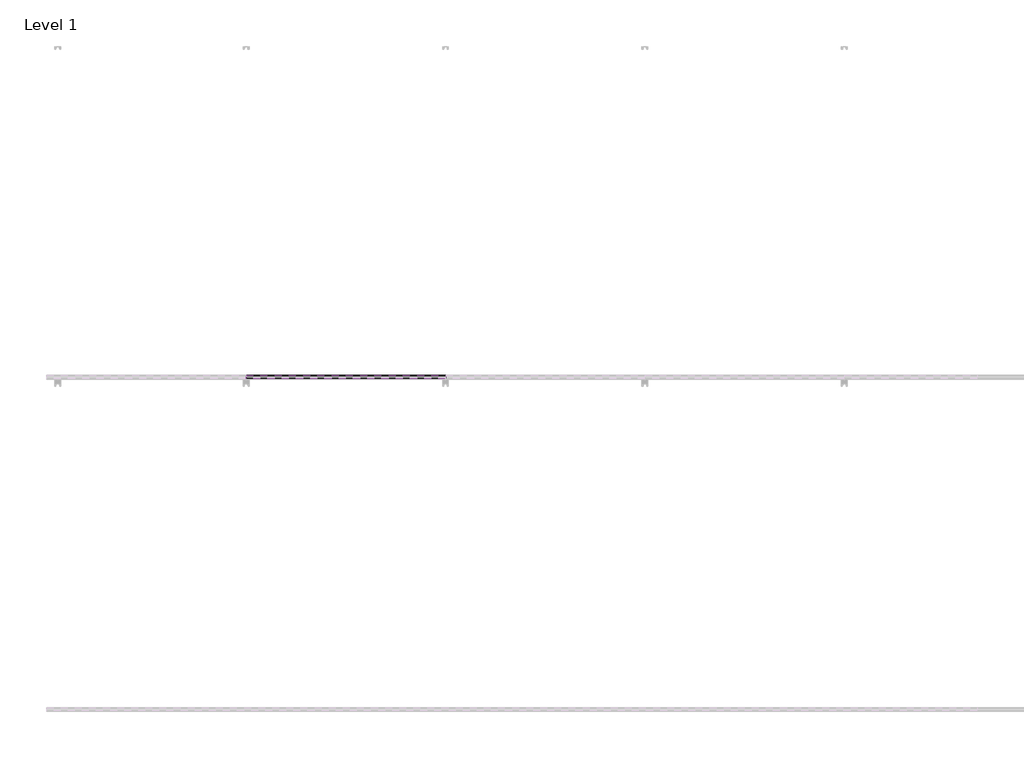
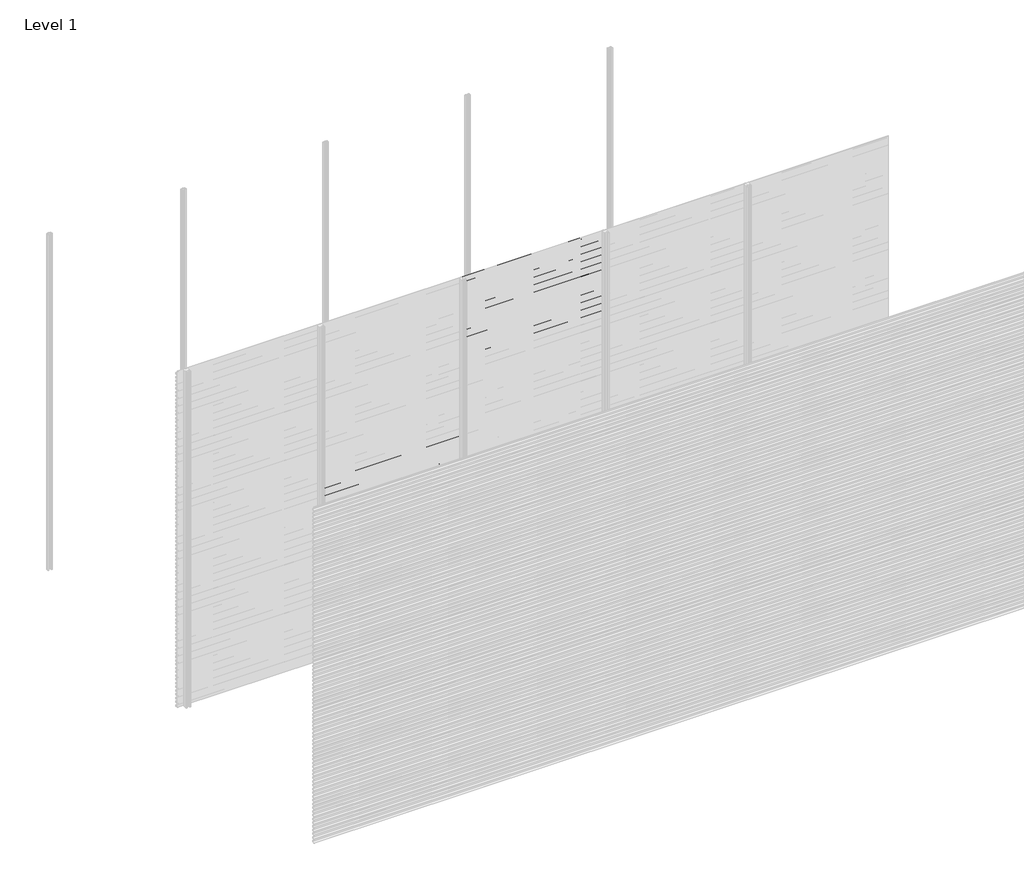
# One storey, part 59 of 77: 72 proxies.
"""IFC4 building model written with IfcOpenShell, lengths in millimetres."""

from ifc_helpers import new_model, si_unit, frame, origin, place, context, project, spatial, polyline, outline, extrude, element, save

model = new_model("IFC4")

# Units and contexts
model_context = context("Model", 3, world=origin())
ifc_project = project(units=[si_unit("LENGTHUNIT", "METRE", prefix="MILLI")], contexts=[model_context])

# Site, building, storey
site = spatial("IfcSite", under=ifc_project)
building = spatial("IfcBuilding", under=site)
storey = spatial("IfcBuildingStorey", under=building, Name="Level 1", Elevation=0.0)

# Proxies
placement = place(None, origin())
element("IfcBuildingElementProxy", 1, Name="Wall Sweeps", at=placement, inside=storey, context=model_context, shape_type="SweptSolid", body=[
    extrude(outline(polyline([(-11978.6, 1607.2359887), (-11998.0, 1618.4366691), (-11998.0, 1631.7), (-11997.0, 1631.7), (-11997.0, 1619.0191057), (-11977.6, 1607.8185105), (-11977.6, 1594.2185105), (-11978.6, 1595.7953129), (-11978.6, 1601.6032062), (-11995.9773817, 1593.5), (-11996.4, 1594.4063078), (-11978.6, 1602.7065841), (-11978.6, 1607.2359887)])), frame((1200.0, 0.0, 0.0), z_axis=(1.0, 0.0, 0.0), x_axis=(0.0, 1.0, 0.0)), (0.0, 0.0, 1.0), 1200.0),
])
element("IfcBuildingElementProxy", 2, Name="Wall Sweeps", at=placement, inside=storey, context=model_context, shape_type="SweptSolid", body=[
    extrude(outline(polyline([(-11978.6, 1573.9359887), (-11998.0, 1585.1366691), (-11998.0, 1598.4), (-11997.0, 1598.4), (-11997.0, 1585.7191057), (-11977.6, 1574.5185105), (-11977.6, 1560.9185105), (-11978.6, 1562.4953129), (-11978.6, 1568.3032062), (-11995.9773817, 1560.2), (-11996.4, 1561.1063078), (-11978.6, 1569.4065841), (-11978.6, 1573.9359887)])), frame((1200.0, 0.0, 0.0), z_axis=(1.0, 0.0, 0.0), x_axis=(0.0, 1.0, 0.0)), (0.0, 0.0, 1.0), 1200.0),
])
element("IfcBuildingElementProxy", 3, Name="Wall Sweeps", at=placement, inside=storey, context=model_context, shape_type="SweptSolid", body=[
    extrude(outline(polyline([(-11978.6, 1540.6359887), (-11998.0, 1551.8366691), (-11998.0, 1565.1), (-11997.0, 1565.1), (-11997.0, 1552.4191057), (-11977.6, 1541.2185105), (-11977.6, 1527.6185105), (-11978.6, 1529.1953129), (-11978.6, 1535.0032062), (-11995.9773817, 1526.9), (-11996.4, 1527.8063078), (-11978.6, 1536.1065841), (-11978.6, 1540.6359887)])), frame((1200.0, 0.0, 0.0), z_axis=(1.0, 0.0, 0.0), x_axis=(0.0, 1.0, 0.0)), (0.0, 0.0, 1.0), 1200.0),
])
element("IfcBuildingElementProxy", 4, Name="Wall Sweeps", at=placement, inside=storey, context=model_context, shape_type="SweptSolid", body=[
    extrude(outline(polyline([(-11978.6, 1507.3359887), (-11998.0, 1518.5366691), (-11998.0, 1531.8), (-11997.0, 1531.8), (-11997.0, 1519.1191057), (-11977.6, 1507.9185105), (-11977.6, 1494.3185105), (-11978.6, 1495.8953129), (-11978.6, 1501.7032062), (-11995.9773817, 1493.6), (-11996.4, 1494.5063078), (-11978.6, 1502.8065841), (-11978.6, 1507.3359887)])), frame((1200.0, 0.0, 0.0), z_axis=(1.0, 0.0, 0.0), x_axis=(0.0, 1.0, 0.0)), (0.0, 0.0, 1.0), 1200.0),
])
element("IfcBuildingElementProxy", 5, Name="Wall Sweeps", at=placement, inside=storey, context=model_context, shape_type="SweptSolid", body=[
    extrude(outline(polyline([(-11978.6, 1474.0359887), (-11998.0, 1485.2366691), (-11998.0, 1498.5), (-11997.0, 1498.5), (-11997.0, 1485.8191057), (-11977.6, 1474.6185105), (-11977.6, 1461.0185105), (-11978.6, 1462.5953129), (-11978.6, 1468.4032062), (-11995.9773817, 1460.3), (-11996.4, 1461.2063078), (-11978.6, 1469.5065841), (-11978.6, 1474.0359887)])), frame((1200.0, 0.0, 0.0), z_axis=(1.0, 0.0, 0.0), x_axis=(0.0, 1.0, 0.0)), (0.0, 0.0, 1.0), 1200.0),
])
element("IfcBuildingElementProxy", 6, Name="Wall Sweeps", at=placement, inside=storey, context=model_context, shape_type="SweptSolid", body=[
    extrude(outline(polyline([(-11978.6, 1440.7359887), (-11998.0, 1451.9366691), (-11998.0, 1465.2), (-11997.0, 1465.2), (-11997.0, 1452.5191057), (-11977.6, 1441.3185105), (-11977.6, 1427.7185105), (-11978.6, 1429.2953129), (-11978.6, 1435.1032062), (-11995.9773817, 1427.0), (-11996.4, 1427.9063078), (-11978.6, 1436.2065841), (-11978.6, 1440.7359887)])), frame((1200.0, 0.0, 0.0), z_axis=(1.0, 0.0, 0.0), x_axis=(0.0, 1.0, 0.0)), (0.0, 0.0, 1.0), 1200.0),
])
element("IfcBuildingElementProxy", 7, Name="Wall Sweeps", at=placement, inside=storey, context=model_context, shape_type="SweptSolid", body=[
    extrude(outline(polyline([(-11978.6, 1407.4359887), (-11998.0, 1418.6366691), (-11998.0, 1431.9), (-11997.0, 1431.9), (-11997.0, 1419.2191057), (-11977.6, 1408.0185105), (-11977.6, 1394.4185105), (-11978.6, 1395.9953129), (-11978.6, 1401.8032062), (-11995.9773817, 1393.7), (-11996.4, 1394.6063078), (-11978.6, 1402.9065841), (-11978.6, 1407.4359887)])), frame((1200.0, 0.0, 0.0), z_axis=(1.0, 0.0, 0.0), x_axis=(0.0, 1.0, 0.0)), (0.0, 0.0, 1.0), 1200.0),
])
element("IfcBuildingElementProxy", 8, Name="Wall Sweeps", at=placement, inside=storey, context=model_context, shape_type="SweptSolid", body=[
    extrude(outline(polyline([(-11978.6, 1374.1359887), (-11998.0, 1385.3366691), (-11998.0, 1398.6), (-11997.0, 1398.6), (-11997.0, 1385.9191057), (-11977.6, 1374.7185105), (-11977.6, 1361.1185105), (-11978.6, 1362.6953129), (-11978.6, 1368.5032062), (-11995.9773817, 1360.4), (-11996.4, 1361.3063078), (-11978.6, 1369.6065841), (-11978.6, 1374.1359887)])), frame((1200.0, 0.0, 0.0), z_axis=(1.0, 0.0, 0.0), x_axis=(0.0, 1.0, 0.0)), (0.0, 0.0, 1.0), 1200.0),
])
element("IfcBuildingElementProxy", 9, Name="Wall Sweeps", at=placement, inside=storey, context=model_context, shape_type="SweptSolid", body=[
    extrude(outline(polyline([(-11978.6, 1340.8359887), (-11998.0, 1352.0366691), (-11998.0, 1365.3), (-11997.0, 1365.3), (-11997.0, 1352.6191057), (-11977.6, 1341.4185105), (-11977.6, 1327.8185105), (-11978.6, 1329.3953129), (-11978.6, 1335.2032062), (-11995.9773817, 1327.1), (-11996.4, 1328.0063078), (-11978.6, 1336.3065841), (-11978.6, 1340.8359887)])), frame((1200.0, 0.0, 0.0), z_axis=(1.0, 0.0, 0.0), x_axis=(0.0, 1.0, 0.0)), (0.0, 0.0, 1.0), 1200.0),
])
element("IfcBuildingElementProxy", 10, Name="Wall Sweeps", at=placement, inside=storey, context=model_context, shape_type="SweptSolid", body=[
    extrude(outline(polyline([(-11978.6, 1307.5359887), (-11998.0, 1318.7366691), (-11998.0, 1332.0), (-11997.0, 1332.0), (-11997.0, 1319.3191057), (-11977.6, 1308.1185105), (-11977.6, 1294.5185105), (-11978.6, 1296.0953129), (-11978.6, 1301.9032062), (-11995.9773817, 1293.8), (-11996.4, 1294.7063078), (-11978.6, 1303.0065841), (-11978.6, 1307.5359887)])), frame((1200.0, 0.0, 0.0), z_axis=(1.0, 0.0, 0.0), x_axis=(0.0, 1.0, 0.0)), (0.0, 0.0, 1.0), 1200.0),
])
element("IfcBuildingElementProxy", 11, Name="Wall Sweeps", at=placement, inside=storey, context=model_context, shape_type="SweptSolid", body=[
    extrude(outline(polyline([(-11978.6, 1274.2359887), (-11998.0, 1285.4366691), (-11998.0, 1298.7), (-11997.0, 1298.7), (-11997.0, 1286.0191057), (-11977.6, 1274.8185105), (-11977.6, 1261.2185105), (-11978.6, 1262.7953129), (-11978.6, 1268.6032062), (-11995.9773817, 1260.5), (-11996.4, 1261.4063078), (-11978.6, 1269.7065841), (-11978.6, 1274.2359887)])), frame((1200.0, 0.0, 0.0), z_axis=(1.0, 0.0, 0.0), x_axis=(0.0, 1.0, 0.0)), (0.0, 0.0, 1.0), 1200.0),
])
element("IfcBuildingElementProxy", 12, Name="Wall Sweeps", at=placement, inside=storey, context=model_context, shape_type="SweptSolid", body=[
    extrude(outline(polyline([(-11978.6, 1240.9359887), (-11998.0, 1252.1366691), (-11998.0, 1265.4), (-11997.0, 1265.4), (-11997.0, 1252.7191057), (-11977.6, 1241.5185105), (-11977.6, 1227.9185105), (-11978.6, 1229.4953129), (-11978.6, 1235.3032062), (-11995.9773817, 1227.2), (-11996.4, 1228.1063078), (-11978.6, 1236.4065841), (-11978.6, 1240.9359887)])), frame((1200.0, 0.0, 0.0), z_axis=(1.0, 0.0, 0.0), x_axis=(0.0, 1.0, 0.0)), (0.0, 0.0, 1.0), 1200.0),
])
element("IfcBuildingElementProxy", 13, Name="Wall Sweeps", at=placement, inside=storey, context=model_context, shape_type="SweptSolid", body=[
    extrude(outline(polyline([(-11978.6, 1207.6359887), (-11998.0, 1218.8366691), (-11998.0, 1232.1), (-11997.0, 1232.1), (-11997.0, 1219.4191057), (-11977.6, 1208.2185105), (-11977.6, 1194.6185105), (-11978.6, 1196.1953129), (-11978.6, 1202.0032062), (-11995.9773817, 1193.9), (-11996.4, 1194.8063078), (-11978.6, 1203.1065841), (-11978.6, 1207.6359887)])), frame((1200.0, 0.0, 0.0), z_axis=(1.0, 0.0, 0.0), x_axis=(0.0, 1.0, 0.0)), (0.0, 0.0, 1.0), 1200.0),
])
element("IfcBuildingElementProxy", 14, Name="Wall Sweeps", at=placement, inside=storey, context=model_context, shape_type="SweptSolid", body=[
    extrude(outline(polyline([(-11978.6, 1174.3359887), (-11998.0, 1185.5366691), (-11998.0, 1198.8), (-11997.0, 1198.8), (-11997.0, 1186.1191057), (-11977.6, 1174.9185105), (-11977.6, 1161.3185105), (-11978.6, 1162.8953129), (-11978.6, 1168.7032062), (-11995.9773817, 1160.6), (-11996.4, 1161.5063078), (-11978.6, 1169.8065841), (-11978.6, 1174.3359887)])), frame((1200.0, 0.0, 0.0), z_axis=(1.0, 0.0, 0.0), x_axis=(0.0, 1.0, 0.0)), (0.0, 0.0, 1.0), 1200.0),
])
element("IfcBuildingElementProxy", 15, Name="Wall Sweeps", at=placement, inside=storey, context=model_context, shape_type="SweptSolid", body=[
    extrude(outline(polyline([(-11978.6, 1141.0359887), (-11998.0, 1152.2366691), (-11998.0, 1165.5), (-11997.0, 1165.5), (-11997.0, 1152.8191057), (-11977.6, 1141.6185105), (-11977.6, 1128.0185105), (-11978.6, 1129.5953129), (-11978.6, 1135.4032062), (-11995.9773817, 1127.3), (-11996.4, 1128.2063078), (-11978.6, 1136.5065841), (-11978.6, 1141.0359887)])), frame((1200.0, 0.0, 0.0), z_axis=(1.0, 0.0, 0.0), x_axis=(0.0, 1.0, 0.0)), (0.0, 0.0, 1.0), 1200.0),
])
element("IfcBuildingElementProxy", 16, Name="Wall Sweeps", at=placement, inside=storey, context=model_context, shape_type="SweptSolid", body=[
    extrude(outline(polyline([(-11978.6, 1107.7359887), (-11998.0, 1118.9366691), (-11998.0, 1132.2), (-11997.0, 1132.2), (-11997.0, 1119.5191057), (-11977.6, 1108.3185105), (-11977.6, 1094.7185105), (-11978.6, 1096.2953129), (-11978.6, 1102.1032062), (-11995.9773817, 1094.0), (-11996.4, 1094.9063078), (-11978.6, 1103.2065841), (-11978.6, 1107.7359887)])), frame((1200.0, 0.0, 0.0), z_axis=(1.0, 0.0, 0.0), x_axis=(0.0, 1.0, 0.0)), (0.0, 0.0, 1.0), 1200.0),
])
element("IfcBuildingElementProxy", 17, Name="Wall Sweeps", at=placement, inside=storey, context=model_context, shape_type="SweptSolid", body=[
    extrude(outline(polyline([(-11978.6, 1074.4359887), (-11998.0, 1085.6366691), (-11998.0, 1098.9), (-11997.0, 1098.9), (-11997.0, 1086.2191057), (-11977.6, 1075.0185105), (-11977.6, 1061.4185105), (-11978.6, 1062.9953129), (-11978.6, 1068.8032062), (-11995.9773817, 1060.7), (-11996.4, 1061.6063078), (-11978.6, 1069.9065841), (-11978.6, 1074.4359887)])), frame((1200.0, 0.0, 0.0), z_axis=(1.0, 0.0, 0.0), x_axis=(0.0, 1.0, 0.0)), (0.0, 0.0, 1.0), 1200.0),
])
element("IfcBuildingElementProxy", 18, Name="Wall Sweeps", at=placement, inside=storey, context=model_context, shape_type="SweptSolid", body=[
    extrude(outline(polyline([(-11978.6, 1041.1359887), (-11998.0, 1052.3366691), (-11998.0, 1065.6), (-11997.0, 1065.6), (-11997.0, 1052.9191057), (-11977.6, 1041.7185105), (-11977.6, 1028.1185105), (-11978.6, 1029.6953129), (-11978.6, 1035.5032062), (-11995.9773817, 1027.4), (-11996.4, 1028.3063078), (-11978.6, 1036.6065841), (-11978.6, 1041.1359887)])), frame((1200.0, 0.0, 0.0), z_axis=(1.0, 0.0, 0.0), x_axis=(0.0, 1.0, 0.0)), (0.0, 0.0, 1.0), 1200.0),
])
element("IfcBuildingElementProxy", 19, Name="Wall Sweeps", at=placement, inside=storey, context=model_context, shape_type="SweptSolid", body=[
    extrude(outline(polyline([(-11978.6, 1007.8359887), (-11998.0, 1019.0366691), (-11998.0, 1032.3), (-11997.0, 1032.3), (-11997.0, 1019.6191057), (-11977.6, 1008.4185105), (-11977.6, 994.8185105), (-11978.6, 996.3953129), (-11978.6, 1002.2032062), (-11995.9773817, 994.1), (-11996.4, 995.0063078), (-11978.6, 1003.3065841), (-11978.6, 1007.8359887)])), frame((1200.0, 0.0, 0.0), z_axis=(1.0, 0.0, 0.0), x_axis=(0.0, 1.0, 0.0)), (0.0, 0.0, 1.0), 1200.0),
])
element("IfcBuildingElementProxy", 20, Name="Wall Sweeps", at=placement, inside=storey, context=model_context, shape_type="SweptSolid", body=[
    extrude(outline(polyline([(-11978.6, 974.5359887), (-11998.0, 985.7366691), (-11998.0, 999.0), (-11997.0, 999.0), (-11997.0, 986.3191057), (-11977.6, 975.1185105), (-11977.6, 961.5185105), (-11978.6, 963.0953129), (-11978.6, 968.9032062), (-11995.9773817, 960.8), (-11996.4, 961.7063078), (-11978.6, 970.0065841), (-11978.6, 974.5359887)])), frame((1200.0, 0.0, 0.0), z_axis=(1.0, 0.0, 0.0), x_axis=(0.0, 1.0, 0.0)), (0.0, 0.0, 1.0), 1200.0),
])
element("IfcBuildingElementProxy", 21, Name="Wall Sweeps", at=placement, inside=storey, context=model_context, shape_type="SweptSolid", body=[
    extrude(outline(polyline([(-11978.6, 941.2359887), (-11998.0, 952.4366691), (-11998.0, 965.7), (-11997.0, 965.7), (-11997.0, 953.0191057), (-11977.6, 941.8185105), (-11977.6, 928.2185105), (-11978.6, 929.7953129), (-11978.6, 935.6032062), (-11995.9773817, 927.5), (-11996.4, 928.4063078), (-11978.6, 936.7065841), (-11978.6, 941.2359887)])), frame((1200.0, 0.0, 0.0), z_axis=(1.0, 0.0, 0.0), x_axis=(0.0, 1.0, 0.0)), (0.0, 0.0, 1.0), 1200.0),
])
element("IfcBuildingElementProxy", 22, Name="Wall Sweeps", at=placement, inside=storey, context=model_context, shape_type="SweptSolid", body=[
    extrude(outline(polyline([(-11978.6, 907.9359887), (-11998.0, 919.1366691), (-11998.0, 932.4), (-11997.0, 932.4), (-11997.0, 919.7191057), (-11977.6, 908.5185105), (-11977.6, 894.9185105), (-11978.6, 896.4953129), (-11978.6, 902.3032062), (-11995.9773817, 894.2), (-11996.4, 895.1063078), (-11978.6, 903.4065841), (-11978.6, 907.9359887)])), frame((1200.0, 0.0, 0.0), z_axis=(1.0, 0.0, 0.0), x_axis=(0.0, 1.0, 0.0)), (0.0, 0.0, 1.0), 1200.0),
])
element("IfcBuildingElementProxy", 23, Name="Wall Sweeps", at=placement, inside=storey, context=model_context, shape_type="SweptSolid", body=[
    extrude(outline(polyline([(-11978.6, 874.6359887), (-11998.0, 885.8366691), (-11998.0, 899.1), (-11997.0, 899.1), (-11997.0, 886.4191057), (-11977.6, 875.2185105), (-11977.6, 861.6185105), (-11978.6, 863.1953129), (-11978.6, 869.0032062), (-11995.9773817, 860.9), (-11996.4, 861.8063078), (-11978.6, 870.1065841), (-11978.6, 874.6359887)])), frame((1200.0, 0.0, 0.0), z_axis=(1.0, 0.0, 0.0), x_axis=(0.0, 1.0, 0.0)), (0.0, 0.0, 1.0), 1200.0),
])
element("IfcBuildingElementProxy", 24, Name="Wall Sweeps", at=placement, inside=storey, context=model_context, shape_type="SweptSolid", body=[
    extrude(outline(polyline([(-11978.6, 841.3359887), (-11998.0, 852.5366691), (-11998.0, 865.8), (-11997.0, 865.8), (-11997.0, 853.1191057), (-11977.6, 841.9185105), (-11977.6, 828.3185105), (-11978.6, 829.8953129), (-11978.6, 835.7032062), (-11995.9773817, 827.6), (-11996.4, 828.5063078), (-11978.6, 836.8065841), (-11978.6, 841.3359887)])), frame((1200.0, 0.0, 0.0), z_axis=(1.0, 0.0, 0.0), x_axis=(0.0, 1.0, 0.0)), (0.0, 0.0, 1.0), 1200.0),
])
element("IfcBuildingElementProxy", 25, Name="Wall Sweeps", at=placement, inside=storey, context=model_context, shape_type="SweptSolid", body=[
    extrude(outline(polyline([(-11978.6, 808.0359887), (-11998.0, 819.2366691), (-11998.0, 832.5), (-11997.0, 832.5), (-11997.0, 819.8191057), (-11977.6, 808.6185105), (-11977.6, 795.0185105), (-11978.6, 796.5953129), (-11978.6, 802.4032062), (-11995.9773817, 794.3), (-11996.4, 795.2063078), (-11978.6, 803.5065841), (-11978.6, 808.0359887)])), frame((1200.0, 0.0, 0.0), z_axis=(1.0, 0.0, 0.0), x_axis=(0.0, 1.0, 0.0)), (0.0, 0.0, 1.0), 1200.0),
])
element("IfcBuildingElementProxy", 26, Name="Wall Sweeps", at=placement, inside=storey, context=model_context, shape_type="SweptSolid", body=[
    extrude(outline(polyline([(-11978.6, 774.7359887), (-11998.0, 785.9366691), (-11998.0, 799.2), (-11997.0, 799.2), (-11997.0, 786.5191057), (-11977.6, 775.3185105), (-11977.6, 761.7185105), (-11978.6, 763.2953129), (-11978.6, 769.1032062), (-11995.9773817, 761.0), (-11996.4, 761.9063078), (-11978.6, 770.2065841), (-11978.6, 774.7359887)])), frame((1200.0, 0.0, 0.0), z_axis=(1.0, 0.0, 0.0), x_axis=(0.0, 1.0, 0.0)), (0.0, 0.0, 1.0), 1200.0),
])
element("IfcBuildingElementProxy", 27, Name="Wall Sweeps", at=placement, inside=storey, context=model_context, shape_type="SweptSolid", body=[
    extrude(outline(polyline([(-11978.6, 741.4359887), (-11998.0, 752.6366691), (-11998.0, 765.9), (-11997.0, 765.9), (-11997.0, 753.2191057), (-11977.6, 742.0185105), (-11977.6, 728.4185105), (-11978.6, 729.9953129), (-11978.6, 735.8032062), (-11995.9773817, 727.7), (-11996.4, 728.6063078), (-11978.6, 736.9065841), (-11978.6, 741.4359887)])), frame((1200.0, 0.0, 0.0), z_axis=(1.0, 0.0, 0.0), x_axis=(0.0, 1.0, 0.0)), (0.0, 0.0, 1.0), 1200.0),
])
element("IfcBuildingElementProxy", 28, Name="Wall Sweeps", at=placement, inside=storey, context=model_context, shape_type="SweptSolid", body=[
    extrude(outline(polyline([(-11978.6, 708.1359887), (-11998.0, 719.3366691), (-11998.0, 732.6), (-11997.0, 732.6), (-11997.0, 719.9191057), (-11977.6, 708.7185105), (-11977.6, 695.1185105), (-11978.6, 696.6953129), (-11978.6, 702.5032062), (-11995.9773817, 694.4), (-11996.4, 695.3063078), (-11978.6, 703.6065841), (-11978.6, 708.1359887)])), frame((1200.0, 0.0, 0.0), z_axis=(1.0, 0.0, 0.0), x_axis=(0.0, 1.0, 0.0)), (0.0, 0.0, 1.0), 1200.0),
])
element("IfcBuildingElementProxy", 29, Name="Wall Sweeps", at=placement, inside=storey, context=model_context, shape_type="SweptSolid", body=[
    extrude(outline(polyline([(-11978.6, 674.8359887), (-11998.0, 686.0366691), (-11998.0, 699.3), (-11997.0, 699.3), (-11997.0, 686.6191057), (-11977.6, 675.4185105), (-11977.6, 661.8185105), (-11978.6, 663.3953129), (-11978.6, 669.2032062), (-11995.9773817, 661.1), (-11996.4, 662.0063078), (-11978.6, 670.3065841), (-11978.6, 674.8359887)])), frame((1200.0, 0.0, 0.0), z_axis=(1.0, 0.0, 0.0), x_axis=(0.0, 1.0, 0.0)), (0.0, 0.0, 1.0), 1200.0),
])
element("IfcBuildingElementProxy", 30, Name="Wall Sweeps", at=placement, inside=storey, context=model_context, shape_type="SweptSolid", body=[
    extrude(outline(polyline([(-11978.6, 641.5359887), (-11998.0, 652.7366691), (-11998.0, 666.0), (-11997.0, 666.0), (-11997.0, 653.3191057), (-11977.6, 642.1185105), (-11977.6, 628.5185105), (-11978.6, 630.0953129), (-11978.6, 635.9032062), (-11995.9773817, 627.8), (-11996.4, 628.7063078), (-11978.6, 637.0065841), (-11978.6, 641.5359887)])), frame((1200.0, 0.0, 0.0), z_axis=(1.0, 0.0, 0.0), x_axis=(0.0, 1.0, 0.0)), (0.0, 0.0, 1.0), 1200.0),
])
element("IfcBuildingElementProxy", 31, Name="Wall Sweeps", at=placement, inside=storey, context=model_context, shape_type="SweptSolid", body=[
    extrude(outline(polyline([(-11978.6, 608.2359887), (-11998.0, 619.4366691), (-11998.0, 632.7), (-11997.0, 632.7), (-11997.0, 620.0191057), (-11977.6, 608.8185105), (-11977.6, 595.2185105), (-11978.6, 596.7953129), (-11978.6, 602.6032062), (-11995.9773817, 594.5), (-11996.4, 595.4063078), (-11978.6, 603.7065841), (-11978.6, 608.2359887)])), frame((1200.0, 0.0, 0.0), z_axis=(1.0, 0.0, 0.0), x_axis=(0.0, 1.0, 0.0)), (0.0, 0.0, 1.0), 1200.0),
])
element("IfcBuildingElementProxy", 32, Name="Wall Sweeps", at=placement, inside=storey, context=model_context, shape_type="SweptSolid", body=[
    extrude(outline(polyline([(-11978.6, 574.9359887), (-11998.0, 586.1366691), (-11998.0, 599.4), (-11997.0, 599.4), (-11997.0, 586.7191057), (-11977.6, 575.5185105), (-11977.6, 561.9185105), (-11978.6, 563.4953129), (-11978.6, 569.3032062), (-11995.9773817, 561.2), (-11996.4, 562.1063078), (-11978.6, 570.4065841), (-11978.6, 574.9359887)])), frame((1200.0, 0.0, 0.0), z_axis=(1.0, 0.0, 0.0), x_axis=(0.0, 1.0, 0.0)), (0.0, 0.0, 1.0), 1200.0),
])
element("IfcBuildingElementProxy", 33, Name="Wall Sweeps", at=placement, inside=storey, context=model_context, shape_type="SweptSolid", body=[
    extrude(outline(polyline([(-11978.6, 541.6359887), (-11998.0, 552.8366691), (-11998.0, 566.1), (-11997.0, 566.1), (-11997.0, 553.4191057), (-11977.6, 542.2185105), (-11977.6, 528.6185105), (-11978.6, 530.1953129), (-11978.6, 536.0032062), (-11995.9773817, 527.9), (-11996.4, 528.8063078), (-11978.6, 537.1065841), (-11978.6, 541.6359887)])), frame((1200.0, 0.0, 0.0), z_axis=(1.0, 0.0, 0.0), x_axis=(0.0, 1.0, 0.0)), (0.0, 0.0, 1.0), 1200.0),
])
element("IfcBuildingElementProxy", 34, Name="Wall Sweeps", at=placement, inside=storey, context=model_context, shape_type="SweptSolid", body=[
    extrude(outline(polyline([(-11978.6, 508.3359887), (-11998.0, 519.5366691), (-11998.0, 532.8), (-11997.0, 532.8), (-11997.0, 520.1191057), (-11977.6, 508.9185105), (-11977.6, 495.3185105), (-11978.6, 496.8953129), (-11978.6, 502.7032062), (-11995.9773817, 494.6), (-11996.4, 495.5063078), (-11978.6, 503.8065841), (-11978.6, 508.3359887)])), frame((1200.0, 0.0, 0.0), z_axis=(1.0, 0.0, 0.0), x_axis=(0.0, 1.0, 0.0)), (0.0, 0.0, 1.0), 1200.0),
])
element("IfcBuildingElementProxy", 35, Name="Wall Sweeps", at=placement, inside=storey, context=model_context, shape_type="SweptSolid", body=[
    extrude(outline(polyline([(-11978.6, 475.0359887), (-11998.0, 486.2366691), (-11998.0, 499.5), (-11997.0, 499.5), (-11997.0, 486.8191057), (-11977.6, 475.6185105), (-11977.6, 462.0185105), (-11978.6, 463.5953129), (-11978.6, 469.4032062), (-11995.9773817, 461.3), (-11996.4, 462.2063078), (-11978.6, 470.5065841), (-11978.6, 475.0359887)])), frame((1200.0, 0.0, 0.0), z_axis=(1.0, 0.0, 0.0), x_axis=(0.0, 1.0, 0.0)), (0.0, 0.0, 1.0), 1200.0),
])
element("IfcBuildingElementProxy", 36, Name="Wall Sweeps", at=placement, inside=storey, context=model_context, shape_type="SweptSolid", body=[
    extrude(outline(polyline([(-11978.6, 441.7359887), (-11998.0, 452.9366691), (-11998.0, 466.2), (-11997.0, 466.2), (-11997.0, 453.5191057), (-11977.6, 442.3185105), (-11977.6, 428.7185105), (-11978.6, 430.2953129), (-11978.6, 436.1032062), (-11995.9773817, 428.0), (-11996.4, 428.9063078), (-11978.6, 437.2065841), (-11978.6, 441.7359887)])), frame((1200.0, 0.0, 0.0), z_axis=(1.0, 0.0, 0.0), x_axis=(0.0, 1.0, 0.0)), (0.0, 0.0, 1.0), 1200.0),
])
element("IfcBuildingElementProxy", 37, Name="Wall Sweeps", at=placement, inside=storey, context=model_context, shape_type="SweptSolid", body=[
    extrude(outline(polyline([(-11978.6, 408.4359887), (-11998.0, 419.6366691), (-11998.0, 432.9), (-11997.0, 432.9), (-11997.0, 420.2191057), (-11977.6, 409.0185105), (-11977.6, 395.4185105), (-11978.6, 396.9953129), (-11978.6, 402.8032062), (-11995.9773817, 394.7), (-11996.4, 395.6063078), (-11978.6, 403.9065841), (-11978.6, 408.4359887)])), frame((1200.0, 0.0, 0.0), z_axis=(1.0, 0.0, 0.0), x_axis=(0.0, 1.0, 0.0)), (0.0, 0.0, 1.0), 1200.0),
])
element("IfcBuildingElementProxy", 38, Name="Wall Sweeps", at=placement, inside=storey, context=model_context, shape_type="SweptSolid", body=[
    extrude(outline(polyline([(-11978.6, 375.1359887), (-11998.0, 386.3366691), (-11998.0, 399.6), (-11997.0, 399.6), (-11997.0, 386.9191057), (-11977.6, 375.7185105), (-11977.6, 362.1185105), (-11978.6, 363.6953129), (-11978.6, 369.5032062), (-11995.9773817, 361.4), (-11996.4, 362.3063078), (-11978.6, 370.6065841), (-11978.6, 375.1359887)])), frame((1200.0, 0.0, 0.0), z_axis=(1.0, 0.0, 0.0), x_axis=(0.0, 1.0, 0.0)), (0.0, 0.0, 1.0), 1200.0),
])
element("IfcBuildingElementProxy", 39, Name="Wall Sweeps", at=placement, inside=storey, context=model_context, shape_type="SweptSolid", body=[
    extrude(outline(polyline([(-11978.6, 341.8359887), (-11998.0, 353.0366691), (-11998.0, 366.3), (-11997.0, 366.3), (-11997.0, 353.6191057), (-11977.6, 342.4185105), (-11977.6, 328.8185105), (-11978.6, 330.3953129), (-11978.6, 336.2032062), (-11995.9773817, 328.1), (-11996.4, 329.0063078), (-11978.6, 337.3065841), (-11978.6, 341.8359887)])), frame((1200.0, 0.0, 0.0), z_axis=(1.0, 0.0, 0.0), x_axis=(0.0, 1.0, 0.0)), (0.0, 0.0, 1.0), 1200.0),
])
element("IfcBuildingElementProxy", 40, Name="Wall Sweeps", at=placement, inside=storey, context=model_context, shape_type="SweptSolid", body=[
    extrude(outline(polyline([(-11978.6, 308.5359887), (-11998.0, 319.7366691), (-11998.0, 333.0), (-11997.0, 333.0), (-11997.0, 320.3191057), (-11977.6, 309.1185105), (-11977.6, 295.5185105), (-11978.6, 297.0953129), (-11978.6, 302.9032062), (-11995.9773817, 294.8), (-11996.4, 295.7063078), (-11978.6, 304.0065841), (-11978.6, 308.5359887)])), frame((1200.0, 0.0, 0.0), z_axis=(1.0, 0.0, 0.0), x_axis=(0.0, 1.0, 0.0)), (0.0, 0.0, 1.0), 1200.0),
])
element("IfcBuildingElementProxy", 41, Name="Wall Sweeps", at=placement, inside=storey, context=model_context, shape_type="SweptSolid", body=[
    extrude(outline(polyline([(-11978.6, 275.2359887), (-11998.0, 286.4366691), (-11998.0, 299.7), (-11997.0, 299.7), (-11997.0, 287.0191057), (-11977.6, 275.8185105), (-11977.6, 262.2185105), (-11978.6, 263.7953129), (-11978.6, 269.6032062), (-11995.9773817, 261.5), (-11996.4, 262.4063078), (-11978.6, 270.7065841), (-11978.6, 275.2359887)])), frame((1200.0, 0.0, 0.0), z_axis=(1.0, 0.0, 0.0), x_axis=(0.0, 1.0, 0.0)), (0.0, 0.0, 1.0), 1200.0),
])
element("IfcBuildingElementProxy", 42, Name="Wall Sweeps", at=placement, inside=storey, context=model_context, shape_type="SweptSolid", body=[
    extrude(outline(polyline([(-11978.6, 241.9359887), (-11998.0, 253.1366691), (-11998.0, 266.4), (-11997.0, 266.4), (-11997.0, 253.7191057), (-11977.6, 242.5185105), (-11977.6, 228.9185105), (-11978.6, 230.4953129), (-11978.6, 236.3032062), (-11995.9773817, 228.2), (-11996.4, 229.1063078), (-11978.6, 237.4065841), (-11978.6, 241.9359887)])), frame((1200.0, 0.0, 0.0), z_axis=(1.0, 0.0, 0.0), x_axis=(0.0, 1.0, 0.0)), (0.0, 0.0, 1.0), 1200.0),
])
element("IfcBuildingElementProxy", 43, Name="Wall Sweeps", at=placement, inside=storey, context=model_context, shape_type="SweptSolid", body=[
    extrude(outline(polyline([(-11978.6, 208.6359887), (-11998.0, 219.8366691), (-11998.0, 233.1), (-11997.0, 233.1), (-11997.0, 220.4191057), (-11977.6, 209.2185105), (-11977.6, 195.6185105), (-11978.6, 197.1953129), (-11978.6, 203.0032062), (-11995.9773817, 194.9), (-11996.4, 195.8063078), (-11978.6, 204.1065841), (-11978.6, 208.6359887)])), frame((1200.0, 0.0, 0.0), z_axis=(1.0, 0.0, 0.0), x_axis=(0.0, 1.0, 0.0)), (0.0, 0.0, 1.0), 1200.0),
])
element("IfcBuildingElementProxy", 44, Name="Wall Sweeps", at=placement, inside=storey, context=model_context, shape_type="SweptSolid", body=[
    extrude(outline(polyline([(-11978.6, 175.3359887), (-11998.0, 186.5366691), (-11998.0, 199.8), (-11997.0, 199.8), (-11997.0, 187.1191057), (-11977.6, 175.9185105), (-11977.6, 162.3185105), (-11978.6, 163.8953129), (-11978.6, 169.7032062), (-11995.9773817, 161.6), (-11996.4, 162.5063078), (-11978.6, 170.8065841), (-11978.6, 175.3359887)])), frame((1200.0, 0.0, 0.0), z_axis=(1.0, 0.0, 0.0), x_axis=(0.0, 1.0, 0.0)), (0.0, 0.0, 1.0), 1200.0),
])
element("IfcBuildingElementProxy", 45, Name="Wall Sweeps", at=placement, inside=storey, context=model_context, shape_type="SweptSolid", body=[
    extrude(outline(polyline([(-11978.6, 142.0359887), (-11998.0, 153.2366691), (-11998.0, 166.5), (-11997.0, 166.5), (-11997.0, 153.8191057), (-11977.6, 142.6185105), (-11977.6, 129.0185105), (-11978.6, 130.5953129), (-11978.6, 136.4032062), (-11995.9773817, 128.3), (-11996.4, 129.2063078), (-11978.6, 137.5065841), (-11978.6, 142.0359887)])), frame((1200.0, 0.0, 0.0), z_axis=(1.0, 0.0, 0.0), x_axis=(0.0, 1.0, 0.0)), (0.0, 0.0, 1.0), 1200.0),
])
element("IfcBuildingElementProxy", 46, Name="Wall Sweeps", at=placement, inside=storey, context=model_context, shape_type="SweptSolid", body=[
    extrude(outline(polyline([(-11978.6, 108.7359887), (-11998.0, 119.9366691), (-11998.0, 133.2), (-11997.0, 133.2), (-11997.0, 120.5191057), (-11977.6, 109.3185105), (-11977.6, 95.7185105), (-11978.6, 97.2953129), (-11978.6, 103.1032062), (-11995.9773817, 95.0), (-11996.4, 95.9063078), (-11978.6, 104.2065841), (-11978.6, 108.7359887)])), frame((1200.0, 0.0, 0.0), z_axis=(1.0, 0.0, 0.0), x_axis=(0.0, 1.0, 0.0)), (0.0, 0.0, 1.0), 1200.0),
])
element("IfcBuildingElementProxy", 47, Name="Wall Sweeps", at=placement, inside=storey, context=model_context, shape_type="SweptSolid", body=[
    extrude(outline(polyline([(-11978.6, 75.4359887), (-11998.0, 86.6366691), (-11998.0, 99.9), (-11997.0, 99.9), (-11997.0, 87.2191057), (-11977.6, 76.0185105), (-11977.6, 62.4185105), (-11978.6, 63.9953129), (-11978.6, 69.8032062), (-11995.9773817, 61.7), (-11996.4, 62.6063078), (-11978.6, 70.9065841), (-11978.6, 75.4359887)])), frame((1200.0, 0.0, 0.0), z_axis=(1.0, 0.0, 0.0), x_axis=(0.0, 1.0, 0.0)), (0.0, 0.0, 1.0), 1200.0),
])
element("IfcBuildingElementProxy", 48, Name="Wall Sweeps", at=placement, inside=storey, context=model_context, shape_type="SweptSolid", body=[
    extrude(outline(polyline([(-11978.6, 42.1359887), (-11998.0, 53.3366691), (-11998.0, 66.6), (-11997.0, 66.6), (-11997.0, 53.9191057), (-11977.6, 42.7185105), (-11977.6, 29.1185105), (-11978.6, 30.6953129), (-11978.6, 36.5032062), (-11995.9773817, 28.4), (-11996.4, 29.3063078), (-11978.6, 37.6065841), (-11978.6, 42.1359887)])), frame((1200.0, 0.0, 0.0), z_axis=(1.0, 0.0, 0.0), x_axis=(0.0, 1.0, 0.0)), (0.0, 0.0, 1.0), 1200.0),
])
element("IfcBuildingElementProxy", 49, Name="Wall Sweeps", at=placement, inside=storey, context=model_context, shape_type="SweptSolid", body=[
    extrude(outline(polyline([(-11978.6, 8.8359887), (-11998.0, 20.0366691), (-11998.0, 33.3), (-11997.0, 33.3), (-11997.0, 20.6191057), (-11977.6, 9.4185105), (-11977.6, -4.1814895), (-11978.6, -2.6046871), (-11978.6, 3.2032062), (-11995.9773817, -4.9), (-11996.4, -3.9936922), (-11978.6, 4.3065841), (-11978.6, 8.8359887)])), frame((1200.0, 0.0, 0.0), z_axis=(1.0, 0.0, 0.0), x_axis=(0.0, 1.0, 0.0)), (0.0, 0.0, 1.0), 1200.0),
])
element("IfcBuildingElementProxy", 50, Name="Wall Sweeps", at=placement, inside=storey, context=model_context, shape_type="SweptSolid", body=[
    extrude(outline(polyline([(-11978.6, 2972.5359887), (-11998.0, 2983.7366691), (-11998.0, 2997.0), (-11997.0, 2997.0), (-11997.0, 2984.3191057), (-11977.6, 2973.1185105), (-11977.6, 2959.5185105), (-11978.6, 2961.0953129), (-11978.6, 2966.9032062), (-11995.9773817, 2958.8), (-11996.4, 2959.7063078), (-11978.6, 2968.0065841), (-11978.6, 2972.5359887)])), frame((2400.0, 0.0, 0.0), z_axis=(1.0, 0.0, 0.0), x_axis=(0.0, 1.0, 0.0)), (0.0, 0.0, 1.0), 1200.0),
])
element("IfcBuildingElementProxy", 51, Name="Wall Sweeps", at=placement, inside=storey, context=model_context, shape_type="SweptSolid", body=[
    extrude(outline(polyline([(-11978.6, 2939.2359887), (-11998.0, 2950.4366691), (-11998.0, 2963.7), (-11997.0, 2963.7), (-11997.0, 2951.0191057), (-11977.6, 2939.8185105), (-11977.6, 2926.2185105), (-11978.6, 2927.7953129), (-11978.6, 2933.6032062), (-11995.9773817, 2925.5), (-11996.4, 2926.4063078), (-11978.6, 2934.7065841), (-11978.6, 2939.2359887)])), frame((2400.0, 0.0, 0.0), z_axis=(1.0, 0.0, 0.0), x_axis=(0.0, 1.0, 0.0)), (0.0, 0.0, 1.0), 1200.0),
])
element("IfcBuildingElementProxy", 52, Name="Wall Sweeps", at=placement, inside=storey, context=model_context, shape_type="SweptSolid", body=[
    extrude(outline(polyline([(-11978.6, 2905.9359887), (-11998.0, 2917.1366691), (-11998.0, 2930.4), (-11997.0, 2930.4), (-11997.0, 2917.7191057), (-11977.6, 2906.5185105), (-11977.6, 2892.9185105), (-11978.6, 2894.4953129), (-11978.6, 2900.3032062), (-11995.9773817, 2892.2), (-11996.4, 2893.1063078), (-11978.6, 2901.4065841), (-11978.6, 2905.9359887)])), frame((2400.0, 0.0, 0.0), z_axis=(1.0, 0.0, 0.0), x_axis=(0.0, 1.0, 0.0)), (0.0, 0.0, 1.0), 1200.0),
])
element("IfcBuildingElementProxy", 53, Name="Wall Sweeps", at=placement, inside=storey, context=model_context, shape_type="SweptSolid", body=[
    extrude(outline(polyline([(-11978.6, 2872.6359887), (-11998.0, 2883.8366691), (-11998.0, 2897.1), (-11997.0, 2897.1), (-11997.0, 2884.4191057), (-11977.6, 2873.2185105), (-11977.6, 2859.6185105), (-11978.6, 2861.1953129), (-11978.6, 2867.0032062), (-11995.9773817, 2858.9), (-11996.4, 2859.8063078), (-11978.6, 2868.1065841), (-11978.6, 2872.6359887)])), frame((2400.0, 0.0, 0.0), z_axis=(1.0, 0.0, 0.0), x_axis=(0.0, 1.0, 0.0)), (0.0, 0.0, 1.0), 1200.0),
])
element("IfcBuildingElementProxy", 54, Name="Wall Sweeps", at=placement, inside=storey, context=model_context, shape_type="SweptSolid", body=[
    extrude(outline(polyline([(-11978.6, 2839.3359887), (-11998.0, 2850.5366691), (-11998.0, 2863.8), (-11997.0, 2863.8), (-11997.0, 2851.1191057), (-11977.6, 2839.9185105), (-11977.6, 2826.3185105), (-11978.6, 2827.8953129), (-11978.6, 2833.7032062), (-11995.9773817, 2825.6), (-11996.4, 2826.5063078), (-11978.6, 2834.8065841), (-11978.6, 2839.3359887)])), frame((2400.0, 0.0, 0.0), z_axis=(1.0, 0.0, 0.0), x_axis=(0.0, 1.0, 0.0)), (0.0, 0.0, 1.0), 1200.0),
])
element("IfcBuildingElementProxy", 55, Name="Wall Sweeps", at=placement, inside=storey, context=model_context, shape_type="SweptSolid", body=[
    extrude(outline(polyline([(-11978.6, 2806.0359887), (-11998.0, 2817.2366691), (-11998.0, 2830.5), (-11997.0, 2830.5), (-11997.0, 2817.8191057), (-11977.6, 2806.6185105), (-11977.6, 2793.0185105), (-11978.6, 2794.5953129), (-11978.6, 2800.4032062), (-11995.9773817, 2792.3), (-11996.4, 2793.2063078), (-11978.6, 2801.5065841), (-11978.6, 2806.0359887)])), frame((2400.0, 0.0, 0.0), z_axis=(1.0, 0.0, 0.0), x_axis=(0.0, 1.0, 0.0)), (0.0, 0.0, 1.0), 1200.0),
])
element("IfcBuildingElementProxy", 56, Name="Wall Sweeps", at=placement, inside=storey, context=model_context, shape_type="SweptSolid", body=[
    extrude(outline(polyline([(-11978.6, 2772.7359887), (-11998.0, 2783.9366691), (-11998.0, 2797.2), (-11997.0, 2797.2), (-11997.0, 2784.5191057), (-11977.6, 2773.3185105), (-11977.6, 2759.7185105), (-11978.6, 2761.2953129), (-11978.6, 2767.1032062), (-11995.9773817, 2759.0), (-11996.4, 2759.9063078), (-11978.6, 2768.2065841), (-11978.6, 2772.7359887)])), frame((2400.0, 0.0, 0.0), z_axis=(1.0, 0.0, 0.0), x_axis=(0.0, 1.0, 0.0)), (0.0, 0.0, 1.0), 1200.0),
])
element("IfcBuildingElementProxy", 57, Name="Wall Sweeps", at=placement, inside=storey, context=model_context, shape_type="SweptSolid", body=[
    extrude(outline(polyline([(-11978.6, 2739.4359887), (-11998.0, 2750.6366691), (-11998.0, 2763.9), (-11997.0, 2763.9), (-11997.0, 2751.2191057), (-11977.6, 2740.0185105), (-11977.6, 2726.4185105), (-11978.6, 2727.9953129), (-11978.6, 2733.8032062), (-11995.9773817, 2725.7), (-11996.4, 2726.6063078), (-11978.6, 2734.9065841), (-11978.6, 2739.4359887)])), frame((2400.0, 0.0, 0.0), z_axis=(1.0, 0.0, 0.0), x_axis=(0.0, 1.0, 0.0)), (0.0, 0.0, 1.0), 1200.0),
])
element("IfcBuildingElementProxy", 58, Name="Wall Sweeps", at=placement, inside=storey, context=model_context, shape_type="SweptSolid", body=[
    extrude(outline(polyline([(-11978.6, 2706.1359887), (-11998.0, 2717.3366691), (-11998.0, 2730.6), (-11997.0, 2730.6), (-11997.0, 2717.9191057), (-11977.6, 2706.7185105), (-11977.6, 2693.1185105), (-11978.6, 2694.6953129), (-11978.6, 2700.5032062), (-11995.9773817, 2692.4), (-11996.4, 2693.3063078), (-11978.6, 2701.6065841), (-11978.6, 2706.1359887)])), frame((2400.0, 0.0, 0.0), z_axis=(1.0, 0.0, 0.0), x_axis=(0.0, 1.0, 0.0)), (0.0, 0.0, 1.0), 1200.0),
])
element("IfcBuildingElementProxy", 59, Name="Wall Sweeps", at=placement, inside=storey, context=model_context, shape_type="SweptSolid", body=[
    extrude(outline(polyline([(-11978.6, 2672.8359887), (-11998.0, 2684.0366691), (-11998.0, 2697.3), (-11997.0, 2697.3), (-11997.0, 2684.6191057), (-11977.6, 2673.4185105), (-11977.6, 2659.8185105), (-11978.6, 2661.3953129), (-11978.6, 2667.2032062), (-11995.9773817, 2659.1), (-11996.4, 2660.0063078), (-11978.6, 2668.3065841), (-11978.6, 2672.8359887)])), frame((2400.0, 0.0, 0.0), z_axis=(1.0, 0.0, 0.0), x_axis=(0.0, 1.0, 0.0)), (0.0, 0.0, 1.0), 1200.0),
])
element("IfcBuildingElementProxy", 60, Name="Wall Sweeps", at=placement, inside=storey, context=model_context, shape_type="SweptSolid", body=[
    extrude(outline(polyline([(-11978.6, 2639.5359887), (-11998.0, 2650.7366691), (-11998.0, 2664.0), (-11997.0, 2664.0), (-11997.0, 2651.3191057), (-11977.6, 2640.1185105), (-11977.6, 2626.5185105), (-11978.6, 2628.0953129), (-11978.6, 2633.9032062), (-11995.9773817, 2625.8), (-11996.4, 2626.7063078), (-11978.6, 2635.0065841), (-11978.6, 2639.5359887)])), frame((2400.0, 0.0, 0.0), z_axis=(1.0, 0.0, 0.0), x_axis=(0.0, 1.0, 0.0)), (0.0, 0.0, 1.0), 1200.0),
])
element("IfcBuildingElementProxy", 61, Name="Wall Sweeps", at=placement, inside=storey, context=model_context, shape_type="SweptSolid", body=[
    extrude(outline(polyline([(-11978.6, 2606.2359887), (-11998.0, 2617.4366691), (-11998.0, 2630.7), (-11997.0, 2630.7), (-11997.0, 2618.0191057), (-11977.6, 2606.8185105), (-11977.6, 2593.2185105), (-11978.6, 2594.7953129), (-11978.6, 2600.6032062), (-11995.9773817, 2592.5), (-11996.4, 2593.4063078), (-11978.6, 2601.7065841), (-11978.6, 2606.2359887)])), frame((2400.0, 0.0, 0.0), z_axis=(1.0, 0.0, 0.0), x_axis=(0.0, 1.0, 0.0)), (0.0, 0.0, 1.0), 1200.0),
])
element("IfcBuildingElementProxy", 62, Name="Wall Sweeps", at=placement, inside=storey, context=model_context, shape_type="SweptSolid", body=[
    extrude(outline(polyline([(-11978.6, 2572.9359887), (-11998.0, 2584.1366691), (-11998.0, 2597.4), (-11997.0, 2597.4), (-11997.0, 2584.7191057), (-11977.6, 2573.5185105), (-11977.6, 2559.9185105), (-11978.6, 2561.4953129), (-11978.6, 2567.3032062), (-11995.9773817, 2559.2), (-11996.4, 2560.1063078), (-11978.6, 2568.4065841), (-11978.6, 2572.9359887)])), frame((2400.0, 0.0, 0.0), z_axis=(1.0, 0.0, 0.0), x_axis=(0.0, 1.0, 0.0)), (0.0, 0.0, 1.0), 1200.0),
])
element("IfcBuildingElementProxy", 63, Name="Wall Sweeps", at=placement, inside=storey, context=model_context, shape_type="SweptSolid", body=[
    extrude(outline(polyline([(-11978.6, 2539.6359887), (-11998.0, 2550.8366691), (-11998.0, 2564.1), (-11997.0, 2564.1), (-11997.0, 2551.4191057), (-11977.6, 2540.2185105), (-11977.6, 2526.6185105), (-11978.6, 2528.1953129), (-11978.6, 2534.0032062), (-11995.9773817, 2525.9), (-11996.4, 2526.8063078), (-11978.6, 2535.1065841), (-11978.6, 2539.6359887)])), frame((2400.0, 0.0, 0.0), z_axis=(1.0, 0.0, 0.0), x_axis=(0.0, 1.0, 0.0)), (0.0, 0.0, 1.0), 1200.0),
])
element("IfcBuildingElementProxy", 64, Name="Wall Sweeps", at=placement, inside=storey, context=model_context, shape_type="SweptSolid", body=[
    extrude(outline(polyline([(-11978.6, 2506.3359887), (-11998.0, 2517.5366691), (-11998.0, 2530.8), (-11997.0, 2530.8), (-11997.0, 2518.1191057), (-11977.6, 2506.9185105), (-11977.6, 2493.3185105), (-11978.6, 2494.8953129), (-11978.6, 2500.7032062), (-11995.9773817, 2492.6), (-11996.4, 2493.5063078), (-11978.6, 2501.8065841), (-11978.6, 2506.3359887)])), frame((2400.0, 0.0, 0.0), z_axis=(1.0, 0.0, 0.0), x_axis=(0.0, 1.0, 0.0)), (0.0, 0.0, 1.0), 1200.0),
])
element("IfcBuildingElementProxy", 65, Name="Wall Sweeps", at=placement, inside=storey, context=model_context, shape_type="SweptSolid", body=[
    extrude(outline(polyline([(-11978.6, 2473.0359887), (-11998.0, 2484.2366691), (-11998.0, 2497.5), (-11997.0, 2497.5), (-11997.0, 2484.8191057), (-11977.6, 2473.6185105), (-11977.6, 2460.0185105), (-11978.6, 2461.5953129), (-11978.6, 2467.4032062), (-11995.9773817, 2459.3), (-11996.4, 2460.2063078), (-11978.6, 2468.5065841), (-11978.6, 2473.0359887)])), frame((2400.0, 0.0, 0.0), z_axis=(1.0, 0.0, 0.0), x_axis=(0.0, 1.0, 0.0)), (0.0, 0.0, 1.0), 1200.0),
])
element("IfcBuildingElementProxy", 66, Name="Wall Sweeps", at=placement, inside=storey, context=model_context, shape_type="SweptSolid", body=[
    extrude(outline(polyline([(-11978.6, 2439.7359887), (-11998.0, 2450.9366691), (-11998.0, 2464.2), (-11997.0, 2464.2), (-11997.0, 2451.5191057), (-11977.6, 2440.3185105), (-11977.6, 2426.7185105), (-11978.6, 2428.2953129), (-11978.6, 2434.1032062), (-11995.9773817, 2426.0), (-11996.4, 2426.9063078), (-11978.6, 2435.2065841), (-11978.6, 2439.7359887)])), frame((2400.0, 0.0, 0.0), z_axis=(1.0, 0.0, 0.0), x_axis=(0.0, 1.0, 0.0)), (0.0, 0.0, 1.0), 1200.0),
])
element("IfcBuildingElementProxy", 67, Name="Wall Sweeps", at=placement, inside=storey, context=model_context, shape_type="SweptSolid", body=[
    extrude(outline(polyline([(-11978.6, 2406.4359887), (-11998.0, 2417.6366691), (-11998.0, 2430.9), (-11997.0, 2430.9), (-11997.0, 2418.2191057), (-11977.6, 2407.0185105), (-11977.6, 2393.4185105), (-11978.6, 2394.9953129), (-11978.6, 2400.8032062), (-11995.9773817, 2392.7), (-11996.4, 2393.6063078), (-11978.6, 2401.9065841), (-11978.6, 2406.4359887)])), frame((2400.0, 0.0, 0.0), z_axis=(1.0, 0.0, 0.0), x_axis=(0.0, 1.0, 0.0)), (0.0, 0.0, 1.0), 1200.0),
])
element("IfcBuildingElementProxy", 68, Name="Wall Sweeps", at=placement, inside=storey, context=model_context, shape_type="SweptSolid", body=[
    extrude(outline(polyline([(-11978.6, 2373.1359887), (-11998.0, 2384.3366691), (-11998.0, 2397.6), (-11997.0, 2397.6), (-11997.0, 2384.9191057), (-11977.6, 2373.7185105), (-11977.6, 2360.1185105), (-11978.6, 2361.6953129), (-11978.6, 2367.5032062), (-11995.9773817, 2359.4), (-11996.4, 2360.3063078), (-11978.6, 2368.6065841), (-11978.6, 2373.1359887)])), frame((2400.0, 0.0, 0.0), z_axis=(1.0, 0.0, 0.0), x_axis=(0.0, 1.0, 0.0)), (0.0, 0.0, 1.0), 1200.0),
])
element("IfcBuildingElementProxy", 69, Name="Wall Sweeps", at=placement, inside=storey, context=model_context, shape_type="SweptSolid", body=[
    extrude(outline(polyline([(-11978.6, 2339.8359887), (-11998.0, 2351.0366691), (-11998.0, 2364.3), (-11997.0, 2364.3), (-11997.0, 2351.6191057), (-11977.6, 2340.4185105), (-11977.6, 2326.8185105), (-11978.6, 2328.3953129), (-11978.6, 2334.2032062), (-11995.9773817, 2326.1), (-11996.4, 2327.0063078), (-11978.6, 2335.3065841), (-11978.6, 2339.8359887)])), frame((2400.0, 0.0, 0.0), z_axis=(1.0, 0.0, 0.0), x_axis=(0.0, 1.0, 0.0)), (0.0, 0.0, 1.0), 1200.0),
])
element("IfcBuildingElementProxy", 70, Name="Wall Sweeps", at=placement, inside=storey, context=model_context, shape_type="SweptSolid", body=[
    extrude(outline(polyline([(-11978.6, 2306.5359887), (-11998.0, 2317.7366691), (-11998.0, 2331.0), (-11997.0, 2331.0), (-11997.0, 2318.3191057), (-11977.6, 2307.1185105), (-11977.6, 2293.5185105), (-11978.6, 2295.0953129), (-11978.6, 2300.9032062), (-11995.9773817, 2292.8), (-11996.4, 2293.7063078), (-11978.6, 2302.0065841), (-11978.6, 2306.5359887)])), frame((2400.0, 0.0, 0.0), z_axis=(1.0, 0.0, 0.0), x_axis=(0.0, 1.0, 0.0)), (0.0, 0.0, 1.0), 1200.0),
])
element("IfcBuildingElementProxy", 71, Name="Wall Sweeps", at=placement, inside=storey, context=model_context, shape_type="SweptSolid", body=[
    extrude(outline(polyline([(-11978.6, 2273.2359887), (-11998.0, 2284.4366691), (-11998.0, 2297.7), (-11997.0, 2297.7), (-11997.0, 2285.0191057), (-11977.6, 2273.8185105), (-11977.6, 2260.2185105), (-11978.6, 2261.7953129), (-11978.6, 2267.6032062), (-11995.9773817, 2259.5), (-11996.4, 2260.4063078), (-11978.6, 2268.7065841), (-11978.6, 2273.2359887)])), frame((2400.0, 0.0, 0.0), z_axis=(1.0, 0.0, 0.0), x_axis=(0.0, 1.0, 0.0)), (0.0, 0.0, 1.0), 1200.0),
])
element("IfcBuildingElementProxy", 72, Name="Wall Sweeps", at=placement, inside=storey, context=model_context, shape_type="SweptSolid", body=[
    extrude(outline(polyline([(-11978.6, 2239.9359887), (-11998.0, 2251.1366691), (-11998.0, 2264.4), (-11997.0, 2264.4), (-11997.0, 2251.7191057), (-11977.6, 2240.5185105), (-11977.6, 2226.9185105), (-11978.6, 2228.4953129), (-11978.6, 2234.3032062), (-11995.9773817, 2226.2), (-11996.4, 2227.1063078), (-11978.6, 2235.4065841), (-11978.6, 2239.9359887)])), frame((2400.0, 0.0, 0.0), z_axis=(1.0, 0.0, 0.0), x_axis=(0.0, 1.0, 0.0)), (0.0, 0.0, 1.0), 1200.0),
])

save(model, "model.ifc")
